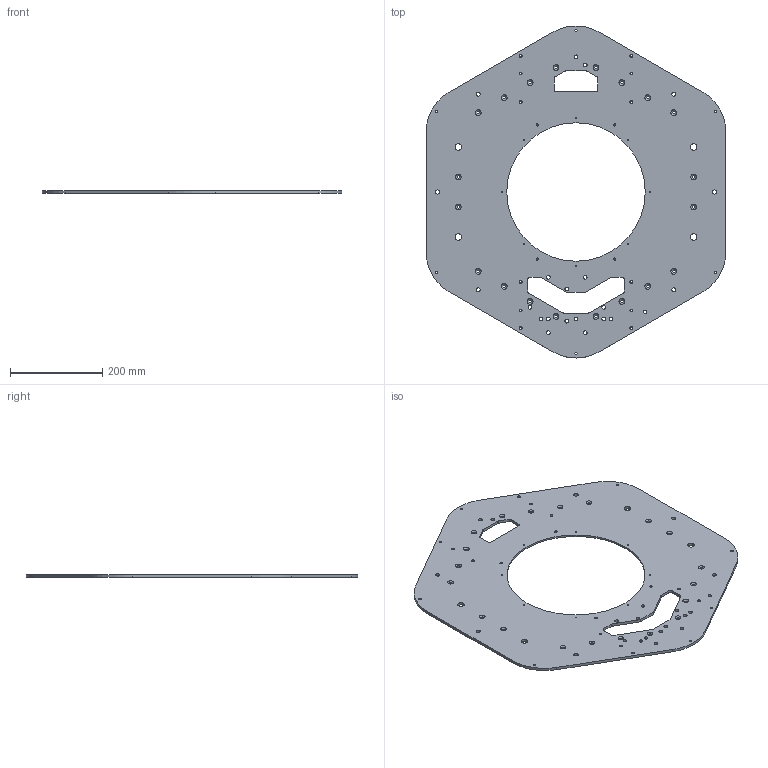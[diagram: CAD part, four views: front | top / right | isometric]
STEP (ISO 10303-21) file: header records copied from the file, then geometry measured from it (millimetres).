
FILE_DESCRIPTION((''),'2;1');
FILE_NAME('ISAT_741478_040','2025-11-20T10:35:34',('kukina_lv'),('Radar-mms'),'CREO PARAMETRIC BY PTC INC, 2018500','CREO PARAMETRIC BY PTC INC, 2018500','');
FILE_SCHEMA(('AUTOMOTIVE_DESIGN { 1 0 10303 214 1 1 1 1 }'));
Length unit declared in the file: millimetre
Products named in the file (1): ISAT_741478_040
Bounding box: 650 x 719.62 x 6 mm (x, y, z)
Volume: 1585814.8 mm3; surface area: 585384.7 mm2
Topology: 1 solids, 25 shells, 295 faces, 1111 edges, 1094 vertices
Faces by surface type: cylinder 226, cone 40, plane 29
Entity records: 18452 total; most frequent: DIRECTION 2263, CARTESIAN_POINT 1987, ORIENTED_EDGE 1576, PRESENTATION_STYLE_ASSIGNMENT 988, STYLED_ITEM 975, CURVE_STYLE 950, EDGE_CURVE 836, AXIS2_PLACEMENT_3D 822
